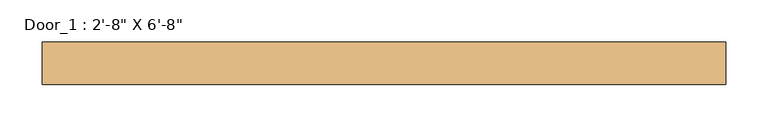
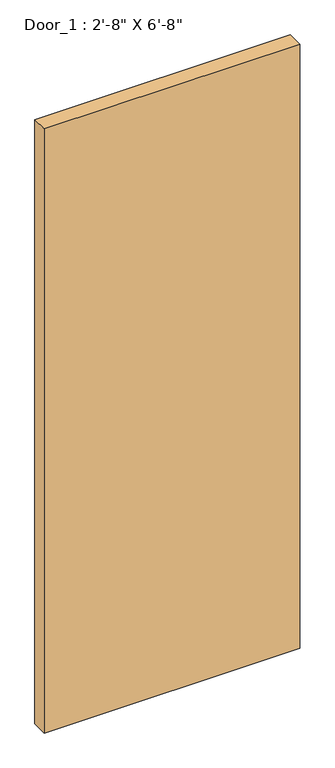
"""IFC4 building model written with IfcOpenShell, lengths in millimetres: door geometry."""

from ifc_helpers import new_model, si_unit, origin, origin_with_axes, place, context, project, spatial, polyline, outline, extrude, source, transform, mapped, element, save


def door_c53031d2(model_context):
    return source(origin(), model_context, "Body", "SweptSolid", [
        extrude(outline(polyline([(406.4, -27.1893842), (406.4, -77.9893842), (-406.4, -77.9893842), (-406.4, -27.1893842), (406.4, -27.1893842)])), origin_with_axes(), (0.0, 0.0, 1.0), 2032.0),
    ])


if __name__ == "__main__":
    model = new_model("IFC4")
    model_context = context("Model", 3, world=origin())
    ifc_project = project(units=[si_unit("LENGTHUNIT", "METRE", prefix="MILLI")], contexts=[model_context])
    site = spatial("IfcSite", under=ifc_project)
    building = spatial("IfcBuilding", under=site)
    placement = place(None, origin())
    door_shape = door_c53031d2(model_context)
    element("IfcDoor", 1, ObjectType="Door_1 : 2'-8\" X 6'-8\"", at=placement, inside=building, context=model_context, shape_type="MappedRepresentation", body=[
        mapped(door_shape, transform((0.0, 0.0, 0.0), x_axis=(1.0, 0.0, 0.0), y_axis=(0.0, 1.0, 0.0), z_axis=(0.0, 0.0, 1.0))),
    ])
    save(model, "model.ifc")
